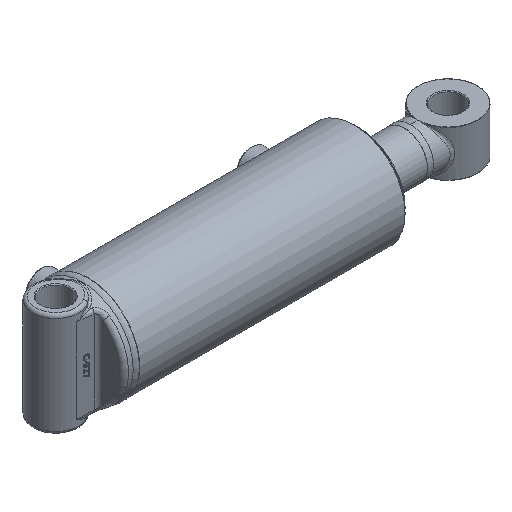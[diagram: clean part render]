
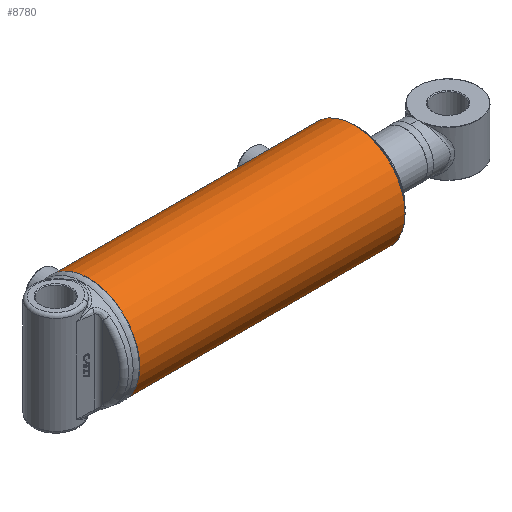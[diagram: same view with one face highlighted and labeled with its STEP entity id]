
A CAD part, isometric view. The second image highlights one B-rep face of the part: STEP entity #8780.
In plain terms, the highlighted cylindrical face has radius 56.356 mm (diameter 112.712 mm), a full revolution.
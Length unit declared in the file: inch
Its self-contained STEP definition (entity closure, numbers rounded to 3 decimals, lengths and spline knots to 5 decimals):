
#808=B_SPLINE_CURVE_WITH_KNOTS('',3,(#13133,#13134,#13135,#13136,#13137,
#13138,#13139,#13140,#13141,#13142),.UNSPECIFIED.,.F.,.F.,(4,2,2,2,4),(0.,
0.23942,0.47883,0.71824,0.95766),
 .UNSPECIFIED.);
#809=B_SPLINE_CURVE_WITH_KNOTS('',3,(#13143,#13144,#13145,#13146,#13147,
#13148,#13149,#13150,#13151,#13152,#13153,#13154,#13155,#13156,#13157,#13158,
#13159,#13160,#13161,#13162,#13163,#13164,#13165,#13166,#13167,#13168),
 .UNSPECIFIED.,.F.,.F.,(4,2,2,2,2,2,2,2,2,2,2,2,4),(0.95766,1.19707,
1.43649,1.6759,1.91532,2.15473,2.39415,
2.63356,2.87297,3.11239,3.3518,3.59122,
3.83063),.UNSPECIFIED.);
#810=B_SPLINE_CURVE_WITH_KNOTS('',3,(#13173,#13174,#13175,#13176,#13177,
#13178,#13179,#13180,#13181,#13182),.UNSPECIFIED.,.F.,.F.,(4,2,2,2,4),(0.,
0.23942,0.47883,0.71824,0.95766),
 .UNSPECIFIED.);
#811=B_SPLINE_CURVE_WITH_KNOTS('',3,(#13183,#13184,#13185,#13186,#13187,
#13188,#13189,#13190,#13191,#13192,#13193,#13194,#13195,#13196,#13197,#13198,
#13199,#13200,#13201,#13202,#13203,#13204,#13205,#13206,#13207,#13208),
 .UNSPECIFIED.,.F.,.F.,(4,2,2,2,2,2,2,2,2,2,2,2,4),(0.95766,1.19707,
1.43649,1.6759,1.91532,2.15473,2.39415,
2.63356,2.87297,3.11239,3.3518,3.59122,
3.83063),.UNSPECIFIED.);
#1096=FACE_BOUND('',#2595,.T.);
#1097=FACE_BOUND('',#2596,.T.);
#1352=LINE('',#13244,#1693);
#1693=VECTOR('',#10661,2.21875);
#2031=CYLINDRICAL_SURFACE('',#9525,2.21875);
#2119=FACE_OUTER_BOUND('',#2594,.T.);
#2594=EDGE_LOOP('',(#6139,#6140,#6141,#6142,#6143,#6144));
#2595=EDGE_LOOP('',(#6145,#6146));
#2596=EDGE_LOOP('',(#6147,#6148));
#3157=CIRCLE('',#9522,2.21875);
#3159=CIRCLE('',#9524,2.21875);
#3160=CIRCLE('',#9526,2.21875);
#3161=CIRCLE('',#9527,2.21875);
#3801=VERTEX_POINT('',#13130);
#3802=VERTEX_POINT('',#13132);
#3803=VERTEX_POINT('',#13170);
#3804=VERTEX_POINT('',#13172);
#3815=VERTEX_POINT('',#13237);
#3816=VERTEX_POINT('',#13238);
#3817=VERTEX_POINT('',#13243);
#3818=VERTEX_POINT('',#13245);
#4736=EDGE_CURVE('',#3802,#3801,#808,.T.);
#4737=EDGE_CURVE('',#3801,#3802,#809,.T.);
#4739=EDGE_CURVE('',#3804,#3803,#810,.T.);
#4740=EDGE_CURVE('',#3803,#3804,#811,.T.);
#4754=EDGE_CURVE('',#3815,#3816,#3157,.T.);
#4756=EDGE_CURVE('',#3816,#3815,#3159,.T.);
#4757=EDGE_CURVE('',#3815,#3817,#1352,.T.);
#4758=EDGE_CURVE('',#3818,#3817,#3160,.T.);
#4759=EDGE_CURVE('',#3817,#3818,#3161,.T.);
#6139=ORIENTED_EDGE('',*,*,#4754,.F.);
#6140=ORIENTED_EDGE('',*,*,#4757,.T.);
#6141=ORIENTED_EDGE('',*,*,#4758,.F.);
#6142=ORIENTED_EDGE('',*,*,#4759,.F.);
#6143=ORIENTED_EDGE('',*,*,#4757,.F.);
#6144=ORIENTED_EDGE('',*,*,#4756,.F.);
#6145=ORIENTED_EDGE('',*,*,#4736,.T.);
#6146=ORIENTED_EDGE('',*,*,#4737,.T.);
#6147=ORIENTED_EDGE('',*,*,#4739,.T.);
#6148=ORIENTED_EDGE('',*,*,#4740,.T.);
#8780=ADVANCED_FACE('',(#2119,#1096,#1097),#2031,.T.);
#9522=AXIS2_PLACEMENT_3D('',#13239,#10653,#10654);
#9524=AXIS2_PLACEMENT_3D('',#13241,#10657,#10658);
#9525=AXIS2_PLACEMENT_3D('',#13242,#10659,#10660);
#9526=AXIS2_PLACEMENT_3D('',#13246,#10662,#10663);
#9527=AXIS2_PLACEMENT_3D('',#13247,#10664,#10665);
#10653=DIRECTION('center_axis',(1.,0.,0.));
#10654=DIRECTION('ref_axis',(0.,-1.,0.));
#10657=DIRECTION('center_axis',(1.,0.,0.));
#10658=DIRECTION('ref_axis',(0.,-1.,0.));
#10659=DIRECTION('center_axis',(1.,0.,0.));
#10660=DIRECTION('ref_axis',(0.,-1.,0.));
#10661=DIRECTION('',(-1.,0.,0.));
#10662=DIRECTION('center_axis',(-1.,0.,0.));
#10663=DIRECTION('ref_axis',(0.,-1.,0.));
#10664=DIRECTION('center_axis',(-1.,0.,0.));
#10665=DIRECTION('ref_axis',(0.,-1.,0.));
#13130=CARTESIAN_POINT('',(0.75,0.,2.21875));
#13132=CARTESIAN_POINT('',(1.,-0.25,2.20462));
#13133=CARTESIAN_POINT('Ctrl Pts',(1.,-0.25,2.20462));
#13134=CARTESIAN_POINT('Ctrl Pts',(0.96858,-0.25,2.20462));
#13135=CARTESIAN_POINT('Ctrl Pts',(0.93509,-0.24372,
2.20536));
#13136=CARTESIAN_POINT('Ctrl Pts',(0.8735,-0.21819,
2.20803));
#13137=CARTESIAN_POINT('Ctrl Pts',(0.8454,-0.19896,
2.20992));
#13138=CARTESIAN_POINT('Ctrl Pts',(0.80104,-0.1546,
2.21347));
#13139=CARTESIAN_POINT('Ctrl Pts',(0.78181,-0.1265,
2.21536));
#13140=CARTESIAN_POINT('Ctrl Pts',(0.75628,-0.06491,
2.21801));
#13141=CARTESIAN_POINT('Ctrl Pts',(0.75,-0.03142,2.21875));
#13142=CARTESIAN_POINT('Ctrl Pts',(0.75,0.,2.21875));
#13143=CARTESIAN_POINT('Ctrl Pts',(0.75,0.,2.21875));
#13144=CARTESIAN_POINT('Ctrl Pts',(0.75,0.03142,2.21875));
#13145=CARTESIAN_POINT('Ctrl Pts',(0.75628,0.06491,
2.21801));
#13146=CARTESIAN_POINT('Ctrl Pts',(0.78181,0.1265,
2.21536));
#13147=CARTESIAN_POINT('Ctrl Pts',(0.80104,0.1546,
2.21347));
#13148=CARTESIAN_POINT('Ctrl Pts',(0.8454,0.19896,
2.20992));
#13149=CARTESIAN_POINT('Ctrl Pts',(0.8735,0.21819,2.20803));
#13150=CARTESIAN_POINT('Ctrl Pts',(0.93509,0.24372,
2.20536));
#13151=CARTESIAN_POINT('Ctrl Pts',(0.96858,0.25,2.20462));
#13152=CARTESIAN_POINT('Ctrl Pts',(1.03142,0.25,2.20462));
#13153=CARTESIAN_POINT('Ctrl Pts',(1.06491,0.24372,2.20536));
#13154=CARTESIAN_POINT('Ctrl Pts',(1.1265,0.21819,2.20803));
#13155=CARTESIAN_POINT('Ctrl Pts',(1.1546,0.19896,2.20992));
#13156=CARTESIAN_POINT('Ctrl Pts',(1.19896,0.1546,2.21347));
#13157=CARTESIAN_POINT('Ctrl Pts',(1.21819,0.1265,2.21536));
#13158=CARTESIAN_POINT('Ctrl Pts',(1.24372,0.06491,
2.21801));
#13159=CARTESIAN_POINT('Ctrl Pts',(1.25,0.03142,2.21875));
#13160=CARTESIAN_POINT('Ctrl Pts',(1.25,-0.03142,2.21875));
#13161=CARTESIAN_POINT('Ctrl Pts',(1.24372,-0.06491,2.21801));
#13162=CARTESIAN_POINT('Ctrl Pts',(1.21819,-0.1265,
2.21536));
#13163=CARTESIAN_POINT('Ctrl Pts',(1.19896,-0.1546,
2.21347));
#13164=CARTESIAN_POINT('Ctrl Pts',(1.1546,-0.19896,
2.20992));
#13165=CARTESIAN_POINT('Ctrl Pts',(1.1265,-0.21819,2.20803));
#13166=CARTESIAN_POINT('Ctrl Pts',(1.06491,-0.24372,2.20536));
#13167=CARTESIAN_POINT('Ctrl Pts',(1.03142,-0.25,2.20462));
#13168=CARTESIAN_POINT('Ctrl Pts',(1.,-0.25,2.20462));
#13170=CARTESIAN_POINT('',(9.87,0.,2.21875));
#13172=CARTESIAN_POINT('',(10.12,-0.25,2.20462));
#13173=CARTESIAN_POINT('Ctrl Pts',(10.12,-0.25,2.20462));
#13174=CARTESIAN_POINT('Ctrl Pts',(10.08858,-0.25,
2.20462));
#13175=CARTESIAN_POINT('Ctrl Pts',(10.05509,-0.24372,2.20536));
#13176=CARTESIAN_POINT('Ctrl Pts',(9.9935,-0.21819,
2.20803));
#13177=CARTESIAN_POINT('Ctrl Pts',(9.9654,-0.19896,
2.20992));
#13178=CARTESIAN_POINT('Ctrl Pts',(9.92104,-0.1546,
2.21347));
#13179=CARTESIAN_POINT('Ctrl Pts',(9.90181,-0.1265,
2.21536));
#13180=CARTESIAN_POINT('Ctrl Pts',(9.87628,-0.06491,
2.21801));
#13181=CARTESIAN_POINT('Ctrl Pts',(9.87,-0.03142,2.21875));
#13182=CARTESIAN_POINT('Ctrl Pts',(9.87,0.,2.21875));
#13183=CARTESIAN_POINT('Ctrl Pts',(9.87,0.,2.21875));
#13184=CARTESIAN_POINT('Ctrl Pts',(9.87,0.03142,2.21875));
#13185=CARTESIAN_POINT('Ctrl Pts',(9.87628,0.06491,
2.21801));
#13186=CARTESIAN_POINT('Ctrl Pts',(9.90181,0.1265,2.21536));
#13187=CARTESIAN_POINT('Ctrl Pts',(9.92104,0.1546,2.21347));
#13188=CARTESIAN_POINT('Ctrl Pts',(9.9654,0.19896,2.20992));
#13189=CARTESIAN_POINT('Ctrl Pts',(9.9935,0.21819,2.20803));
#13190=CARTESIAN_POINT('Ctrl Pts',(10.05509,0.24372,2.20536));
#13191=CARTESIAN_POINT('Ctrl Pts',(10.08858,0.25,2.20462));
#13192=CARTESIAN_POINT('Ctrl Pts',(10.15142,0.25,2.20462));
#13193=CARTESIAN_POINT('Ctrl Pts',(10.18491,0.24372,2.20536));
#13194=CARTESIAN_POINT('Ctrl Pts',(10.2465,0.21819,2.20803));
#13195=CARTESIAN_POINT('Ctrl Pts',(10.2746,0.19896,2.20992));
#13196=CARTESIAN_POINT('Ctrl Pts',(10.31896,0.1546,2.21347));
#13197=CARTESIAN_POINT('Ctrl Pts',(10.33819,0.1265,2.21536));
#13198=CARTESIAN_POINT('Ctrl Pts',(10.36372,0.06491,
2.21801));
#13199=CARTESIAN_POINT('Ctrl Pts',(10.37,0.03142,2.21875));
#13200=CARTESIAN_POINT('Ctrl Pts',(10.37,-0.03142,2.21875));
#13201=CARTESIAN_POINT('Ctrl Pts',(10.36372,-0.06491,
2.21801));
#13202=CARTESIAN_POINT('Ctrl Pts',(10.33819,-0.1265,
2.21536));
#13203=CARTESIAN_POINT('Ctrl Pts',(10.31896,-0.1546,
2.21347));
#13204=CARTESIAN_POINT('Ctrl Pts',(10.2746,-0.19896,
2.20992));
#13205=CARTESIAN_POINT('Ctrl Pts',(10.2465,-0.21819,2.20803));
#13206=CARTESIAN_POINT('Ctrl Pts',(10.18491,-0.24372,
2.20536));
#13207=CARTESIAN_POINT('Ctrl Pts',(10.15142,-0.25,
2.20462));
#13208=CARTESIAN_POINT('Ctrl Pts',(10.12,-0.25,2.20462));
#13237=CARTESIAN_POINT('',(11.61,2.21875,0.));
#13238=CARTESIAN_POINT('',(11.61,0.,-2.21875));
#13239=CARTESIAN_POINT('Origin',(11.61,0.,0.));
#13241=CARTESIAN_POINT('Origin',(11.61,0.,0.));
#13242=CARTESIAN_POINT('Origin',(0.,0.,0.));
#13243=CARTESIAN_POINT('',(0.11186,2.21875,0.));
#13244=CARTESIAN_POINT('',(0.,2.21875,0.));
#13245=CARTESIAN_POINT('',(0.11186,0.,2.21875));
#13246=CARTESIAN_POINT('Origin',(0.11186,0.,0.));
#13247=CARTESIAN_POINT('Origin',(0.11186,0.,0.));
